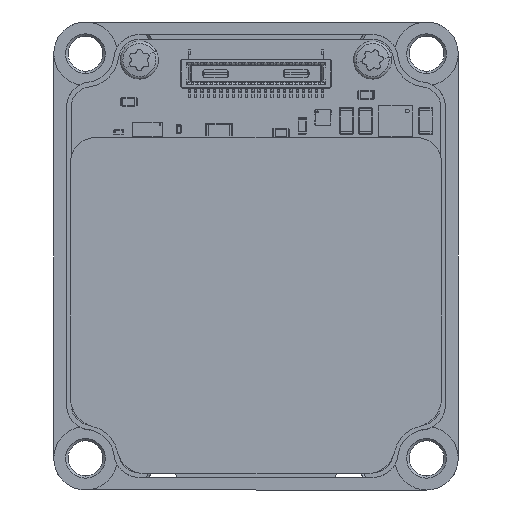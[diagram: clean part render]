
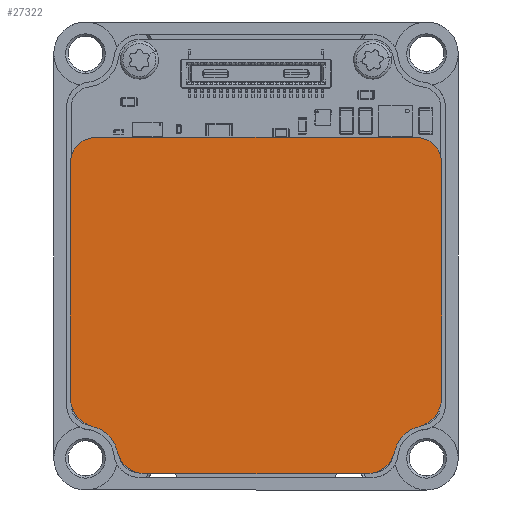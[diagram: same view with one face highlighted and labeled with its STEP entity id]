
A CAD part, front view. The second image highlights one B-rep face of the part: STEP entity #27322.
In plain terms, the highlighted planar face has unit normal (0, -1, 0).
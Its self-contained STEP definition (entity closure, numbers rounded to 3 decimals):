
#182 = ORIENTED_EDGE ( 'NONE', *, *, #35728, .T. ) ;
#246 = VERTEX_POINT ( 'NONE', #30929 ) ;
#430 = ORIENTED_EDGE ( 'NONE', *, *, #17959, .F. ) ;
#1312 = DIRECTION ( 'NONE',  ( -1., 0., 0. ) ) ;
#1864 = AXIS2_PLACEMENT_3D ( 'NONE', #39993, #13182, #28868 ) ;
#2143 = CARTESIAN_POINT ( 'NONE',  ( 11.7, 0.26, 7.47 ) ) ;
#2336 = CARTESIAN_POINT ( 'NONE',  ( -10.277, 0.26, -10.755 ) ) ;
#2398 = VERTEX_POINT ( 'NONE', #43408 ) ;
#2764 = DIRECTION ( 'NONE',  ( 0., 1., 0. ) ) ;
#3028 = CARTESIAN_POINT ( 'NONE',  ( -10.75, 0.26, -12.75 ) ) ;
#3221 = EDGE_CURVE ( 'NONE', #25195, #2398, #13624, .T. ) ;
#3785 = CARTESIAN_POINT ( 'NONE',  ( -11.7, 0.26, -8.955 ) ) ;
#3901 = EDGE_CURVE ( 'NONE', #13226, #33544, #35503, .T. ) ;
#3917 = CARTESIAN_POINT ( 'NONE',  ( 11.7, 0.26, -8.955 ) ) ;
#4154 = VERTEX_POINT ( 'NONE', #9816 ) ;
#5101 = DIRECTION ( 'NONE',  ( 0., -1., 0. ) ) ;
#6417 = EDGE_CURVE ( 'NONE', #33544, #20356, #32892, .T. ) ;
#6817 = DIRECTION ( 'NONE',  ( 1., 0., 0. ) ) ;
#7608 = PLANE ( 'NONE',  #37685 ) ;
#9354 = CIRCLE ( 'NONE', #12574, 2.05 ) ;
#9595 = CIRCLE ( 'NONE', #15239, 1.85 ) ;
#9769 = EDGE_CURVE ( 'NONE', #2398, #13226, #12296, .T. ) ;
#9816 = CARTESIAN_POINT ( 'NONE',  ( 10.277, 0.26, -10.755 ) ) ;
#10199 = EDGE_CURVE ( 'NONE', #36845, #25333, #47788, .T. ) ;
#11519 = DIRECTION ( 'NONE',  ( 0., 1., 0. ) ) ;
#11746 = DIRECTION ( 'NONE',  ( 1., 0., 0. ) ) ;
#12296 = CIRCLE ( 'NONE', #1864, 1.85 ) ;
#12574 = AXIS2_PLACEMENT_3D ( 'NONE', #25075, #5101, #32644 ) ;
#13080 = VERTEX_POINT ( 'NONE', #3917 ) ;
#13182 = DIRECTION ( 'NONE',  ( 0., 1., 0. ) ) ;
#13226 = VERTEX_POINT ( 'NONE', #32930 ) ;
#13624 = LINE ( 'NONE', #47839, #33880 ) ;
#14365 = CARTESIAN_POINT ( 'NONE',  ( 10.1, 0.26, 5.87 ) ) ;
#14404 = DIRECTION ( 'NONE',  ( 1., 0., 0. ) ) ;
#15239 = AXIS2_PLACEMENT_3D ( 'NONE', #34986, #35463, #11746 ) ;
#15288 = VECTOR ( 'NONE', #38849, 1000. ) ;
#15292 = DIRECTION ( 'NONE',  ( -1., 0., 0. ) ) ;
#16178 = FACE_OUTER_BOUND ( 'NONE', #41791, .T. ) ;
#16934 = CARTESIAN_POINT ( 'NONE',  ( -11.7, 0.26, 7.47 ) ) ;
#17959 = EDGE_CURVE ( 'NONE', #4154, #246, #9354, .T. ) ;
#18172 = DIRECTION ( 'NONE',  ( 1., 0., 0. ) ) ;
#18446 = DIRECTION ( 'NONE',  ( 1., 0., 0. ) ) ;
#18580 = CARTESIAN_POINT ( 'NONE',  ( -9.85, 0.26, -8.955 ) ) ;
#20173 = AXIS2_PLACEMENT_3D ( 'NONE', #3028, #34124, #18446 ) ;
#20227 = EDGE_CURVE ( 'NONE', #20356, #22757, #40455, .T. ) ;
#20315 = EDGE_CURVE ( 'NONE', #13080, #4154, #21803, .T. ) ;
#20356 = VERTEX_POINT ( 'NONE', #3785 ) ;
#20741 = AXIS2_PLACEMENT_3D ( 'NONE', #39893, #47288, #32289 ) ;
#20854 = AXIS2_PLACEMENT_3D ( 'NONE', #18580, #11519, #15292 ) ;
#21803 = CIRCLE ( 'NONE', #28278, 1.85 ) ;
#22516 = CARTESIAN_POINT ( 'NONE',  ( 6.948, 0.26, -13.73 ) ) ;
#22757 = VERTEX_POINT ( 'NONE', #44135 ) ;
#22991 = CARTESIAN_POINT ( 'NONE',  ( 9.85, 0.26, -8.955 ) ) ;
#24209 = VECTOR ( 'NONE', #44539, 1000. ) ;
#24587 = CARTESIAN_POINT ( 'NONE',  ( 11.7, 0.26, 5.87 ) ) ;
#24891 = ORIENTED_EDGE ( 'NONE', *, *, #3901, .F. ) ;
#25075 = CARTESIAN_POINT ( 'NONE',  ( 10.75, 0.26, -12.75 ) ) ;
#25195 = VERTEX_POINT ( 'NONE', #22516 ) ;
#25333 = VERTEX_POINT ( 'NONE', #36664 ) ;
#25769 = VECTOR ( 'NONE', #14404, 1000. ) ;
#26118 = ORIENTED_EDGE ( 'NONE', *, *, #3221, .F. ) ;
#27322 = ADVANCED_FACE ( 'NONE', ( #16178 ), #7608, .T. ) ;
#28278 = AXIS2_PLACEMENT_3D ( 'NONE', #41446, #2764, #6817 ) ;
#28868 = DIRECTION ( 'NONE',  ( -1., 0., 0. ) ) ;
#29456 = EDGE_CURVE ( 'NONE', #246, #25195, #9595, .T. ) ;
#30929 = CARTESIAN_POINT ( 'NONE',  ( 8.752, 0.26, -12.293 ) ) ;
#31222 = CIRCLE ( 'NONE', #20741, 1.6 ) ;
#31322 = DIRECTION ( 'NONE',  ( 0., -1., 0. ) ) ;
#32289 = DIRECTION ( 'NONE',  ( 1., 0., 0. ) ) ;
#32644 = DIRECTION ( 'NONE',  ( -1., 0., 0. ) ) ;
#32892 = CIRCLE ( 'NONE', #20854, 1.85 ) ;
#32930 = CARTESIAN_POINT ( 'NONE',  ( -8.752, 0.26, -12.293 ) ) ;
#33544 = VERTEX_POINT ( 'NONE', #2336 ) ;
#33880 = VECTOR ( 'NONE', #1312, 1000. ) ;
#34124 = DIRECTION ( 'NONE',  ( 0., -1., 0. ) ) ;
#34986 = CARTESIAN_POINT ( 'NONE',  ( 6.948, 0.26, -11.88 ) ) ;
#35365 = ORIENTED_EDGE ( 'NONE', *, *, #37952, .F. ) ;
#35463 = DIRECTION ( 'NONE',  ( 0., 1., 0. ) ) ;
#35503 = CIRCLE ( 'NONE', #20173, 2.05 ) ;
#35728 = EDGE_CURVE ( 'NONE', #43355, #22757, #31222, .T. ) ;
#36104 = ORIENTED_EDGE ( 'NONE', *, *, #6417, .F. ) ;
#36664 = CARTESIAN_POINT ( 'NONE',  ( 10.1, 0.26, 7.47 ) ) ;
#36845 = VERTEX_POINT ( 'NONE', #24587 ) ;
#37383 = DIRECTION ( 'NONE',  ( 0., -1., 0. ) ) ;
#37685 = AXIS2_PLACEMENT_3D ( 'NONE', #22991, #31322, #38449 ) ;
#37694 = ORIENTED_EDGE ( 'NONE', *, *, #20315, .F. ) ;
#37952 = EDGE_CURVE ( 'NONE', #43355, #25333, #38437, .T. ) ;
#38434 = ORIENTED_EDGE ( 'NONE', *, *, #29456, .F. ) ;
#38437 = LINE ( 'NONE', #2143, #25769 ) ;
#38449 = DIRECTION ( 'NONE',  ( 1., 0., 0. ) ) ;
#38849 = DIRECTION ( 'NONE',  ( 0., 0., -1. ) ) ;
#39178 = ORIENTED_EDGE ( 'NONE', *, *, #9769, .F. ) ;
#39893 = CARTESIAN_POINT ( 'NONE',  ( -10.1, 0.26, 5.87 ) ) ;
#39993 = CARTESIAN_POINT ( 'NONE',  ( -6.948, 0.26, -11.88 ) ) ;
#40455 = LINE ( 'NONE', #16934, #24209 ) ;
#41104 = ORIENTED_EDGE ( 'NONE', *, *, #20227, .F. ) ;
#41446 = CARTESIAN_POINT ( 'NONE',  ( 9.85, 0.26, -8.955 ) ) ;
#41791 = EDGE_LOOP ( 'NONE', ( #35365, #182, #41104, #36104, #24891, #39178, #26118, #38434, #430, #37694, #42905, #45808 ) ) ;
#42141 = CARTESIAN_POINT ( 'NONE',  ( 11.7, 0.26, 7.47 ) ) ;
#42639 = LINE ( 'NONE', #42141, #15288 ) ;
#42905 = ORIENTED_EDGE ( 'NONE', *, *, #42907, .F. ) ;
#42907 = EDGE_CURVE ( 'NONE', #36845, #13080, #42639, .T. ) ;
#43355 = VERTEX_POINT ( 'NONE', #49329 ) ;
#43408 = CARTESIAN_POINT ( 'NONE',  ( -6.948, 0.26, -13.73 ) ) ;
#44135 = CARTESIAN_POINT ( 'NONE',  ( -11.7, 0.26, 5.87 ) ) ;
#44539 = DIRECTION ( 'NONE',  ( 0., 0., 1. ) ) ;
#45808 = ORIENTED_EDGE ( 'NONE', *, *, #10199, .T. ) ;
#46194 = AXIS2_PLACEMENT_3D ( 'NONE', #14365, #37383, #18172 ) ;
#47288 = DIRECTION ( 'NONE',  ( 0., -1., 0. ) ) ;
#47788 = CIRCLE ( 'NONE', #46194, 1.6 ) ;
#47839 = CARTESIAN_POINT ( 'NONE',  ( 6.948, 0.26, -13.73 ) ) ;
#49329 = CARTESIAN_POINT ( 'NONE',  ( -10.1, 0.26, 7.47 ) ) ;
